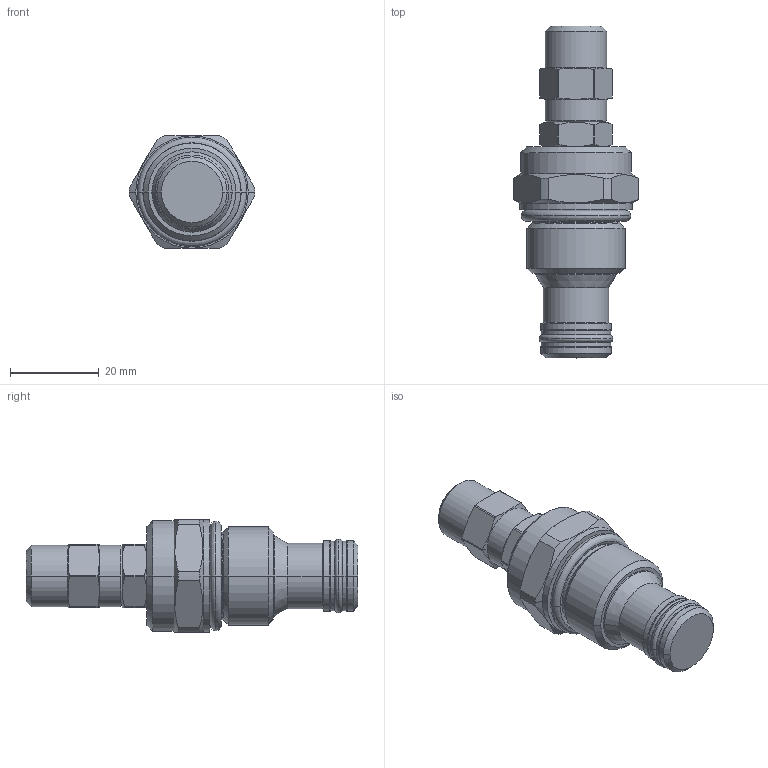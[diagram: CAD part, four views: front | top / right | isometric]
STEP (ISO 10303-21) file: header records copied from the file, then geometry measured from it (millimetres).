
FILE_DESCRIPTION((''),'2;1');
FILE_NAME('5424120_SW0002','2009-02-03T',('jcs'),(''),'PRO/ENGINEER BY PARAMETRIC TECHNOLOGY CORPORATION, 2008010','PRO/ENGINEER BY PARAMETRIC TECHNOLOGY CORPORATION, 2008010','');
FILE_SCHEMA(('CONFIG_CONTROL_DESIGN'));
Length unit declared in the file: inch
Products named in the file (1): 5424120_SW0002
Bounding box: 28.19 x 74.63 x 25.4 mm (x, y, z)
Volume: 19192 mm3; surface area: 7384.3 mm2
Topology: 3 solids, 4 shells, 154 faces, 344 edges, 201 vertices
Faces by surface type: cylinder 52, cone 40, plane 30, torus 16, revolution 16
Entity records: 5134 total; most frequent: CARTESIAN_POINT 1663, DIRECTION 758, ORIENTED_EDGE 684, EDGE_CURVE 342, AXIS2_PLACEMENT_3D 318, VERTEX_POINT 201, CIRCLE 180, EDGE_LOOP 163
